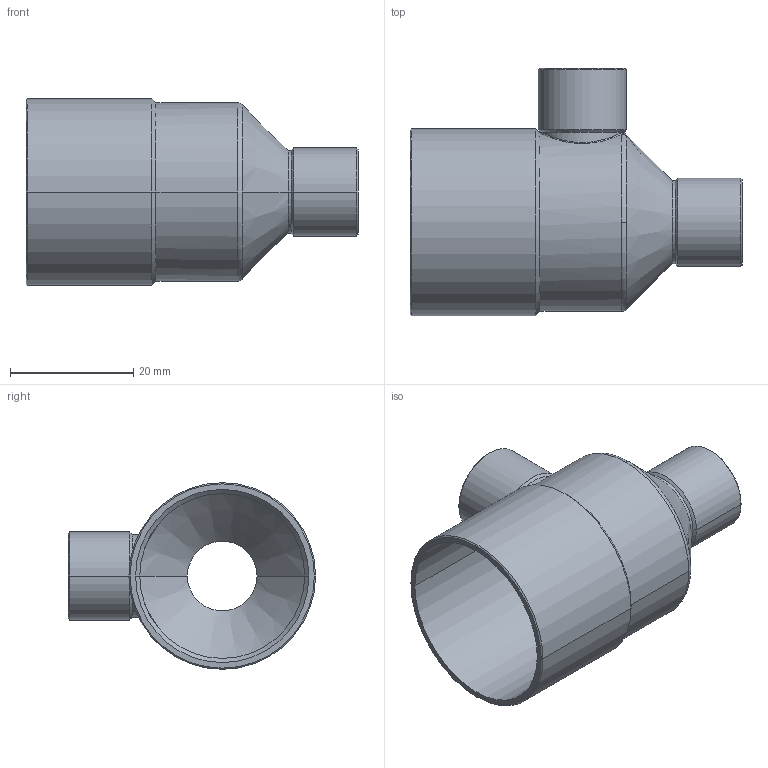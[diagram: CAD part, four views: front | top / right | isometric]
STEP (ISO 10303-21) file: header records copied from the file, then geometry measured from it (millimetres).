
FILE_DESCRIPTION((''),'2;1');
FILE_NAME('G:\Technics\CAD\Bauteile\15130\15130281212.stp','2005-11-03T13:42:37',('boden'),(''),'Autodesk Inventor 8','Autodesk Inventor 8','');
FILE_SCHEMA(('AUTOMOTIVE_DESIGN { 1 0 10303 214 1 1 1 1 }'));
Length unit declared in the file: millimetre
Products named in the file (1): 15130281212
Bounding box: 53.97 x 40.17 x 30.35 mm (x, y, z)
Volume: 5146.7 mm3; surface area: 9537.8 mm2
Topology: 1 solids, 1 shells, 58 faces, 131 edges, 74 vertices
Faces by surface type: cone 26, cylinder 24, torus 3, plane 3, bspline 2
Entity records: 2064 total; most frequent: CARTESIAN_POINT 737, DIRECTION 292, ORIENTED_EDGE 262, EDGE_CURVE 131, AXIS2_PLACEMENT_3D 122, VERTEX_POINT 74, CIRCLE 65, EDGE_LOOP 61
